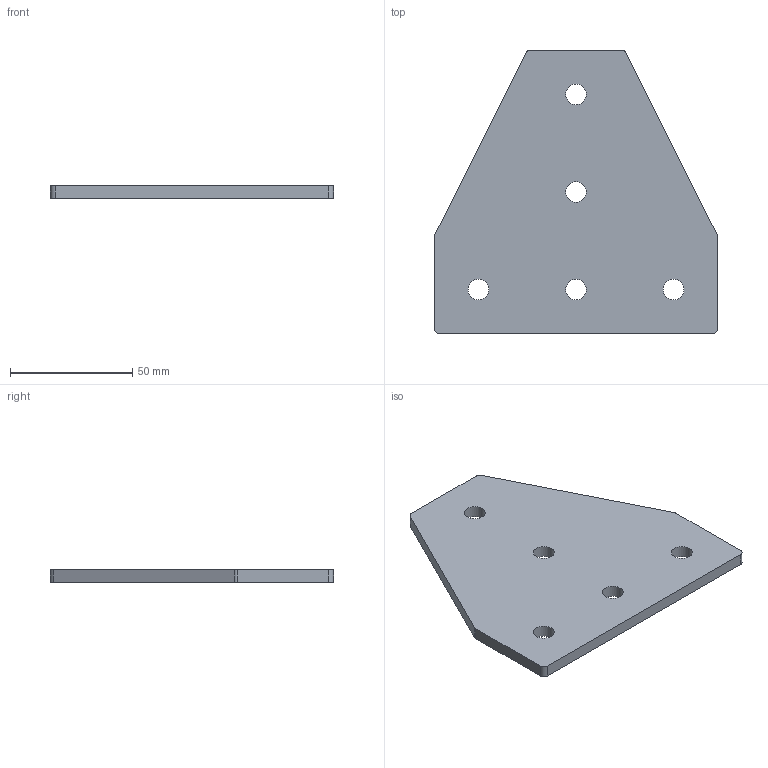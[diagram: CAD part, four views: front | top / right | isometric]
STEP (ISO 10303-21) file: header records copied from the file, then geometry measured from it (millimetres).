
FILE_DESCRIPTION(/* description */ ('www.motedis.com/part/LP40111','CAx-IF Rec.Pracs.---Representation and Presentation of Product Manufacturing Information (PMI)---4.0---2014-10-13'),/* implementation_level */ '2;1');
FILE_NAME(/* name */ 'Motedis_LP40111.stp',/* time_stamp */ '2026-07-07T12:24:42+02:00',/* author */ ('Motedis'),/* organization */ ('Motedis GmbH'),/* preprocessor_version */ 'ST-DEVELOPER v20.1',/* originating_system */ 'Autodesk Inventor 2026',/* authorisation */ 'Motedis GmbH');
FILE_SCHEMA (('AP242_MANAGED_MODEL_BASED_3D_ENGINEERING_MIM_LF { 1 0 10303 442 2 1 4 }'));
Length unit declared in the file: millimetre
Products named in the file (1): Motedis_LP40111
Bounding box: 116 x 116 x 5 mm (x, y, z)
Volume: 51410 mm3; surface area: 23250 mm2
Topology: 1 solids, 1 shells, 19 faces, 51 edges, 34 vertices
Faces by surface type: cylinder 11, plane 8
Full cylindrical faces by diameter (mm): 8.5 x5
Entity records: 783 total; most frequent: DIRECTION 145, CARTESIAN_POINT 126, ORIENTED_EDGE 102, AXIS2_PLACEMENT_3D 58, EDGE_CURVE 51, VERTEX_POINT 34, EDGE_LOOP 29, LINE 29
